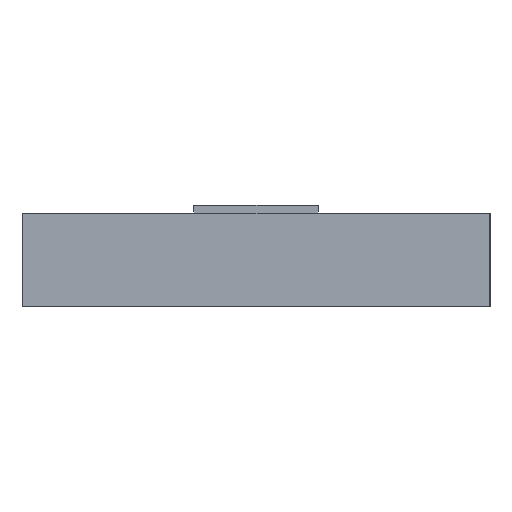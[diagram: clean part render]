
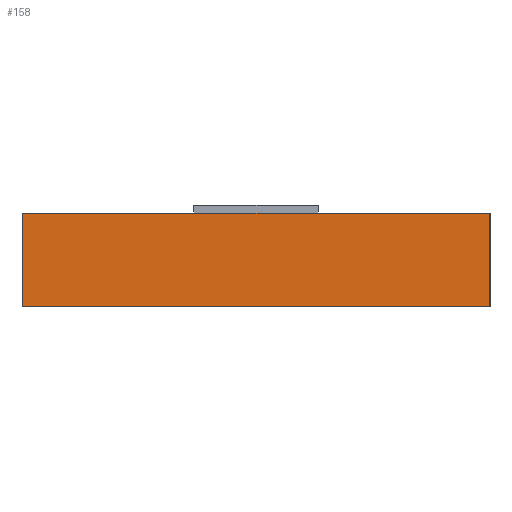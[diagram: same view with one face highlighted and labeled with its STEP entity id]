
A CAD part, left-side view. The second image highlights one B-rep face of the part: STEP entity #158.
In plain terms, the highlighted planar face has unit normal (-1, 0, 0).
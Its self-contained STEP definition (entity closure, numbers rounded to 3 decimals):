
#158=ADVANCED_FACE('',(#299),#301,.T.);
#299=FACE_BOUND('',#300,.T.);
#300=EDGE_LOOP('',(#567,#568,#569,#570,#571,#572));
#301=PLANE('',#302);
#302=AXIS2_PLACEMENT_3D('',#303,#304,#305);
#303=CARTESIAN_POINT('',(-4.5,3.,0.));
#304=DIRECTION('',(-1.,0.,0.));
#305=DIRECTION('',(0.,-1.,0.));
#567=ORIENTED_EDGE('',*,*,#773,.F.);
#568=ORIENTED_EDGE('',*,*,#774,.F.);
#569=ORIENTED_EDGE('',*,*,#775,.T.);
#570=ORIENTED_EDGE('',*,*,#776,.T.);
#571=ORIENTED_EDGE('',*,*,#777,.F.);
#572=ORIENTED_EDGE('',*,*,#750,.F.);
#750=EDGE_CURVE('',#901,#903,#904,.F.);
#773=EDGE_CURVE('',#939,#901,#940,.T.);
#774=EDGE_CURVE('',#941,#939,#942,.T.);
#775=EDGE_CURVE('',#941,#943,#944,.T.);
#776=EDGE_CURVE('',#943,#945,#946,.T.);
#777=EDGE_CURVE('',#903,#945,#947,.T.);
#901=VERTEX_POINT('',#1034);
#903=VERTEX_POINT('',#1038);
#904=LINE('',#1039,#1040);
#939=VERTEX_POINT('',#1120);
#940=LINE('',#1121,#1122);
#941=VERTEX_POINT('',#1124);
#942=LINE('',#1125,#1126);
#943=VERTEX_POINT('',#1128);
#944=LINE('',#1129,#1130);
#945=VERTEX_POINT('',#1132);
#946=LINE('',#1133,#1134);
#947=LINE('',#1136,#1137);
#1034=CARTESIAN_POINT('',(-4.5,0.8,1.2));
#1038=CARTESIAN_POINT('',(-4.5,-0.8,1.2));
#1039=CARTESIAN_POINT('',(-4.5,-0.8,1.2));
#1040=VECTOR('',#1041,1.);
#1041=DIRECTION('',(0.,1.,0.));
#1120=CARTESIAN_POINT('',(-4.5,3.,1.2));
#1121=CARTESIAN_POINT('',(-4.5,3.,1.2));
#1122=VECTOR('',#1123,1.);
#1123=DIRECTION('',(0.,-1.,0.));
#1124=CARTESIAN_POINT('',(-4.5,3.,0.));
#1125=CARTESIAN_POINT('',(-4.5,3.,0.));
#1126=VECTOR('',#1127,1.);
#1127=DIRECTION('',(0.,0.,1.));
#1128=CARTESIAN_POINT('',(-4.5,-3.,0.));
#1129=CARTESIAN_POINT('',(-4.5,3.,0.));
#1130=VECTOR('',#1131,1.);
#1131=DIRECTION('',(0.,-1.,0.));
#1132=CARTESIAN_POINT('',(-4.5,-3.,1.2));
#1133=CARTESIAN_POINT('',(-4.5,-3.,0.));
#1134=VECTOR('',#1135,1.);
#1135=DIRECTION('',(0.,0.,1.));
#1136=CARTESIAN_POINT('',(-4.5,-0.8,1.2));
#1137=VECTOR('',#1138,1.);
#1138=DIRECTION('',(0.,-1.,0.));
